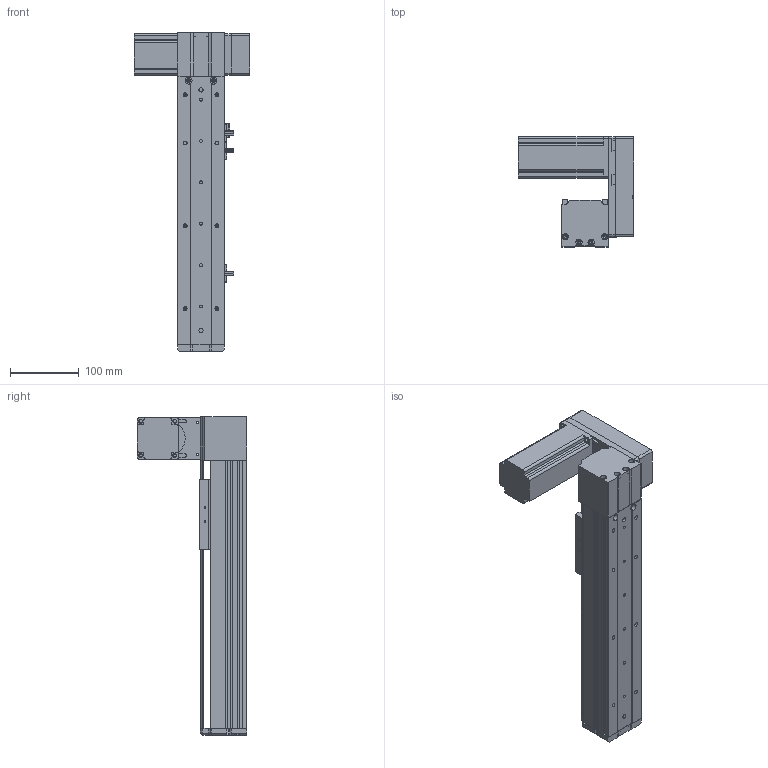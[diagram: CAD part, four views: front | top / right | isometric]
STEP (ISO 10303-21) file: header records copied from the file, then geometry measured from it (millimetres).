
FILE_DESCRIPTION (( 'STEP AP214' ), '1' );
FILE_NAME ('KSD68BS-S200-MLU-CM.STEP', '2019-08-22T02:21:08', ( '微软用户' ), ( '微软中国' ), 'SwSTEP 2.0', 'SolidWorks 2014', '' );
FILE_SCHEMA (( 'AUTOMOTIVE_DESIGN' ));
Length unit declared in the file: millimetre
Products named in the file (11): 68宽马达安装板连板上折同步带; 68宽单导轨半封闭同步带主动轮座左; 68单导轨同步带半封闭端板; KSD68BS 200俴最裔啣圉猾敕; 覜茼え68遵圉猾敕; KSD68BS半封闭同步带传动导轨座; U倰嫖萇EEㄜSX672; 台达ECMA－C20604AS伺服电机（400W); KSD68BS 200俴最菁啣圉猾敕; KSD68BS-S200-MLU-CM; 悵誘欶奻狟殏
Assembly tree (12 placements, depth 2):
  KSD68BS-S200-MLU-CM
    KSD68BS 200俴最菁啣圉猾敕
    台达ECMA－C20604AS伺服电机（400W)
    U倰嫖萇EEㄜSX672  x3
    KSD68BS半封闭同步带传动导轨座
    覜茼え68遵圉猾敕
    KSD68BS 200俴最裔啣圉猾敕
    68单导轨同步带半封闭端板
    68宽单导轨半封闭同步带主动轮座左
    68宽马达安装板连板上折同步带
    悵誘欶奻狟殏
Bounding box: 167.2 x 159.5 x 462 mm (x, y, z)
Volume: 1362639 mm3; surface area: 405585.2 mm2
Topology: 13 solids, 13 shells, 1204 faces, 3384 edges, 2194 vertices
Faces by surface type: cylinder 562, plane 559, cone 83
Entity records: 41350 total; most frequent: CARTESIAN_POINT 7326, DIRECTION 5594, ORIENTED_EDGE 5520, EDGE_CURVE 2760, AXIS2_PLACEMENT_3D 1990, VERTEX_POINT 1818, LINE 1614, VECTOR 1614
